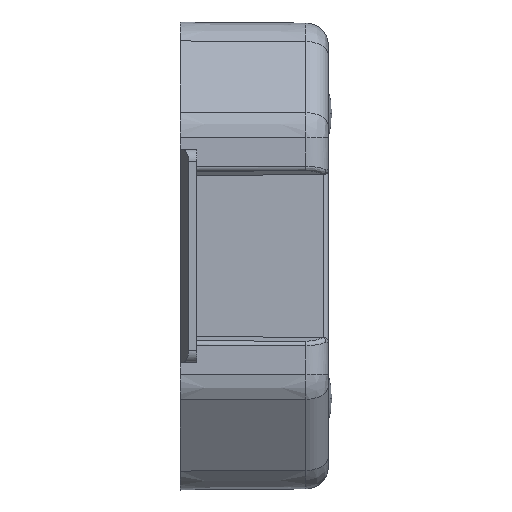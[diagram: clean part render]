
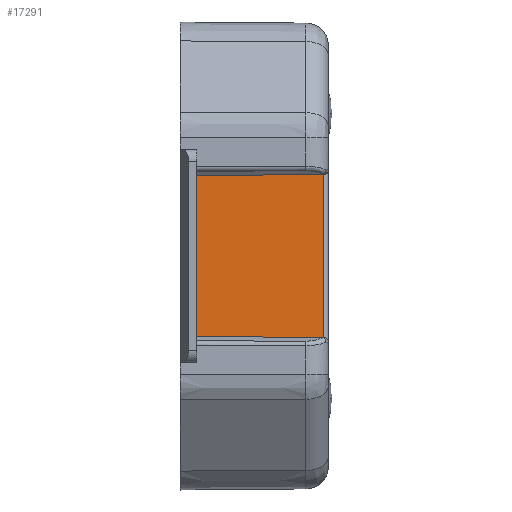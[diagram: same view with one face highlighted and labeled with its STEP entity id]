
A CAD part, left-side view. The second image highlights one B-rep face of the part: STEP entity #17291.
In plain terms, the highlighted planar face has unit normal (-1, -0.005, 0).
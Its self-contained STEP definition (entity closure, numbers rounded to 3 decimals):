
#3184=DIRECTION('',(0.,0.,-1.));
#3185=VECTOR('',#3184,30.253);
#3186=CARTESIAN_POINT('',(-32.373,-24.204,
15.127));
#3187=LINE('',#3186,#3185);
#3306=DIRECTION('',(0.,0.,-1.));
#3307=VECTOR('',#3306,30.029);
#3308=CARTESIAN_POINT('',(-32.485,-2.8,15.015));
#3309=LINE('',#3308,#3307);
#3310=DIRECTION('',(0.005,-1.,0.005));
#3311=VECTOR('',#3310,21.405);
#3312=CARTESIAN_POINT('',(-32.485,-2.8,15.015));
#3313=LINE('',#3312,#3311);
#3318=DIRECTION('',(0.005,-1.,-0.005));
#3319=VECTOR('',#3318,21.405);
#3320=CARTESIAN_POINT('',(-32.485,-2.8,-15.015));
#3321=LINE('',#3320,#3319);
#11413=CARTESIAN_POINT('',(-32.485,-2.8,15.015));
#11414=CARTESIAN_POINT('',(-32.485,-2.8,-15.015));
#11415=VERTEX_POINT('',#11413);
#11416=VERTEX_POINT('',#11414);
#11650=CARTESIAN_POINT('',(-32.373,-24.204,
-15.127));
#11651=VERTEX_POINT('',#11650);
#11654=CARTESIAN_POINT('',(-32.373,-24.204,
15.127));
#11655=VERTEX_POINT('',#11654);
#17279=CARTESIAN_POINT('',(-32.5,0.,17.2));
#17280=DIRECTION('',(1.,0.005,0.));
#17281=DIRECTION('',(0.,0.,-1.));
#17282=AXIS2_PLACEMENT_3D('',#17279,#17280,#17281);
#17283=PLANE('',#17282);
#17284=ORIENTED_EDGE('',*,*,#17120,.T.);
#17286=ORIENTED_EDGE('',*,*,#17285,.F.);
#17287=ORIENTED_EDGE('',*,*,#17230,.F.);
#17288=ORIENTED_EDGE('',*,*,#17272,.T.);
#17289=EDGE_LOOP('',(#17284,#17286,#17287,#17288));
#17290=FACE_OUTER_BOUND('',#17289,.F.);
#17291=ADVANCED_FACE('',(#17290),#17283,.F.);
#17120=EDGE_CURVE('',#11655,#11651,#3187,.T.);
#17230=EDGE_CURVE('',#11415,#11416,#3309,.T.);
#17272=EDGE_CURVE('',#11415,#11655,#3313,.T.);
#17285=EDGE_CURVE('',#11416,#11651,#3321,.T.);
